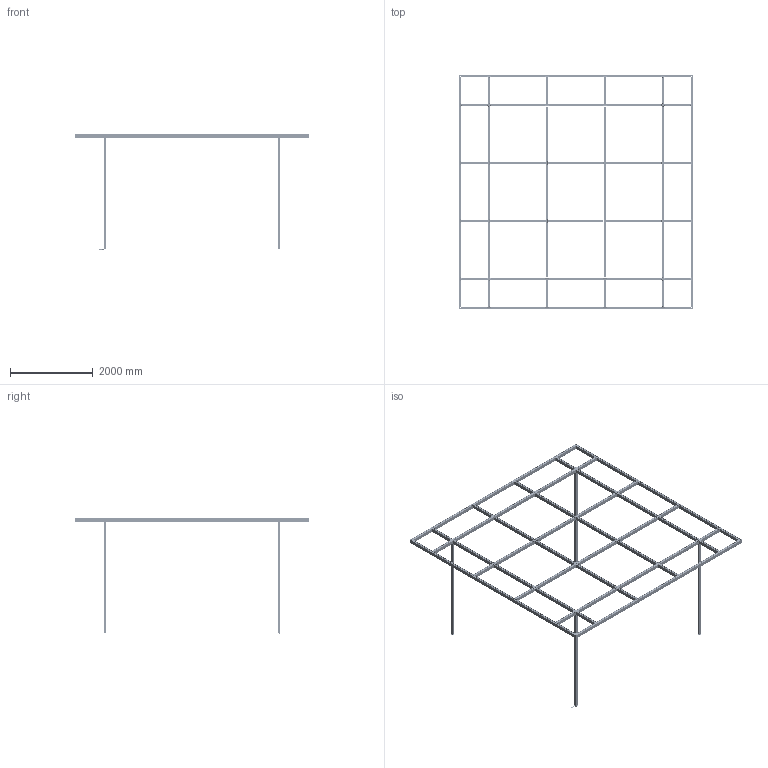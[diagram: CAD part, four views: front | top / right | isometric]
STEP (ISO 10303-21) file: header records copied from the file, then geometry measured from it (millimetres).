
FILE_DESCRIPTION (( 'STEP AP214' ), '1' );
FILE_NAME ('1001899_Redux.STEP', '2025-09-11T11:49:28', ( '' ), ( '' ), 'SwSTEP 2.0', 'SolidWorks 2025', '' );
FILE_SCHEMA (( 'AUTOMOTIVE_DESIGN' ));
Length unit declared in the file: millimetre
Products named in the file (1): 1001899_Redux
Bounding box: 5660 x 5660 x 2808.6 mm (x, y, z)
Volume: 170596155.9 mm3; surface area: 46725461.9 mm2
Topology: 242 solids, 242 shells, 16648 faces, 47161 edges, 31205 vertices
Faces by surface type: plane 10210, cylinder 5736, bspline 472, cone 200, torus 24, sphere 6
Entity records: 568844 total; most frequent: CARTESIAN_POINT 130243, ORIENTED_EDGE 94298, DIRECTION 88020, EDGE_CURVE 47149, LINE 34168, VECTOR 34168, VERTEX_POINT 31199, AXIS2_PLACEMENT_3D 26926
